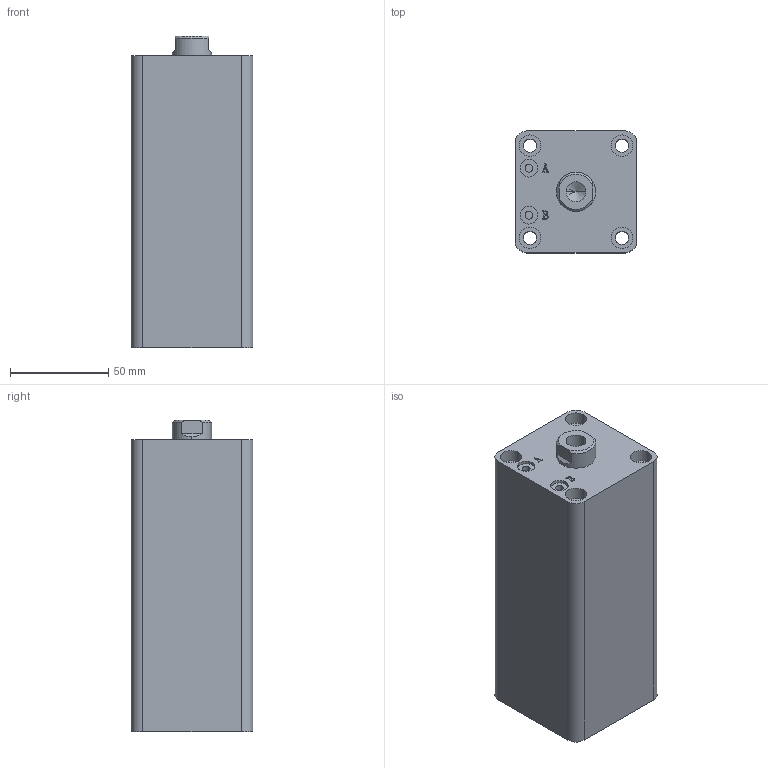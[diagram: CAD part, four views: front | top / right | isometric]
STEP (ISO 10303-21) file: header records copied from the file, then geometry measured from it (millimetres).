
FILE_DESCRIPTION (( 'STEP AP203' ), '1' );
FILE_NAME ('HTB-SDMA32-95N.STEP', '2019-10-07T11:45:50', ( '微软用户' ), ( '微软中国' ), 'SwSTEP 2.0', 'SolidWorks 2012', '' );
FILE_SCHEMA (( 'CONFIG_CONTROL_DESIGN' ));
Length unit declared in the file: millimetre
Products named in the file (3): HTB-SDMA32-95N; HTB-SDMA32-95N活塞杆; HTB-SDMA32-95掛极
Assembly tree (2 placements, depth 2):
  HTB-SDMA32-95N
    HTB-SDMA32-95掛极
    HTB-SDMA32-95N活塞杆
Bounding box: 62 x 62 x 159 mm (x, y, z)
Volume: 497904.9 mm3; surface area: 82660.3 mm2
Topology: 2 solids, 2 shells, 137 faces, 331 edges, 217 vertices
Faces by surface type: plane 65, cylinder 46, bspline 16, torus 6, cone 4
Entity records: 5070 total; most frequent: CARTESIAN_POINT 1576, ORIENTED_EDGE 658, DIRECTION 647, EDGE_CURVE 329, AXIS2_PLACEMENT_3D 232, VERTEX_POINT 217, VECTOR 183, LINE 183
